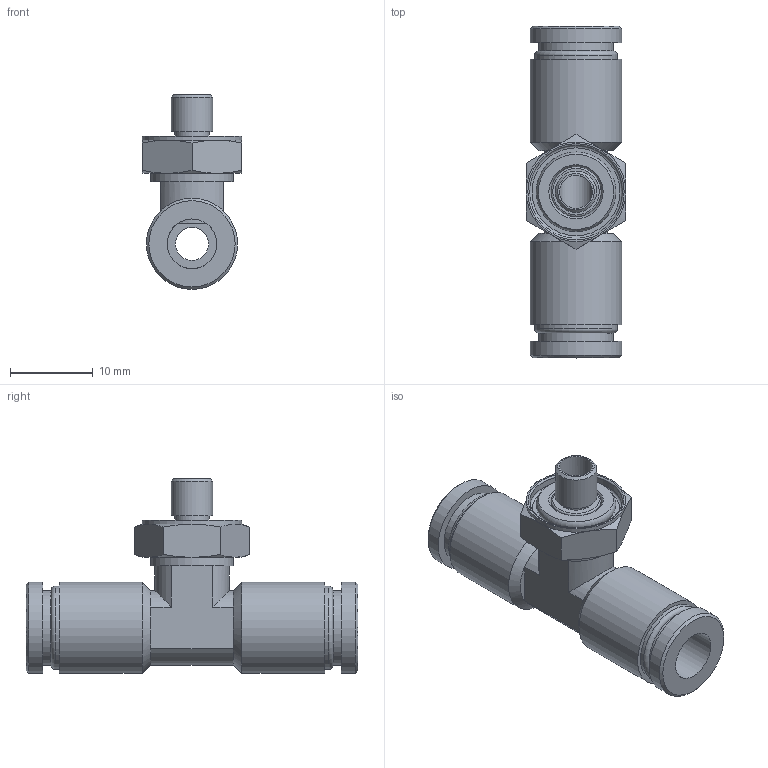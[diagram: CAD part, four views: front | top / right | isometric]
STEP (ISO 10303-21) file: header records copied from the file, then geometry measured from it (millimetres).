
FILE_DESCRIPTION(/* description */ (''),/* implementation_level */ '2;1');
FILE_NAME(/* name */ 'LXH38 0006 M5.stp',/* time_stamp */ '2026-04-24T18:56:55+02:00',/* author */ ('freju'),/* organization */ (''),/* preprocessor_version */ 'ST-DEVELOPER v20.1',/* originating_system */ 'Autodesk Inventor 2026',/* authorisation */ '');
FILE_SCHEMA (('AUTOMOTIVE_DESIGN { 1 0 10303 214 3 1 1 }'));
Length unit declared in the file: millimetre
Products named in the file (4): LXH38 0006 M5; LXH38 0006 M5_1; O-Ring; ISO 3601-1 - A 0060 G
Assembly tree (3 placements, depth 3):
  LXH38 0006 M5
    LXH38 0006 M5_1
    O-Ring
      ISO 3601-1 - A 0060 G
Bounding box: 12 x 40 x 23.5 mm (x, y, z)
Volume: 2985.2 mm3; surface area: 3196.7 mm2
Topology: 2 solids, 2 shells, 81 faces, 174 edges, 108 vertices
Faces by surface type: plane 31, cylinder 25, cone 17, torus 8
Full cylindrical faces by diameter (mm): 4 x2, 4.2 x1, 5 x1, 6 x3, 9 x2, 10 x3, 11 x4, 11.2 x1, 12 x1
Entity records: 2356 total; most frequent: CARTESIAN_POINT 436, DIRECTION 420, ORIENTED_EDGE 348, AXIS2_PLACEMENT_3D 184, EDGE_CURVE 174, VERTEX_POINT 108, EDGE_LOOP 98, CIRCLE 92
